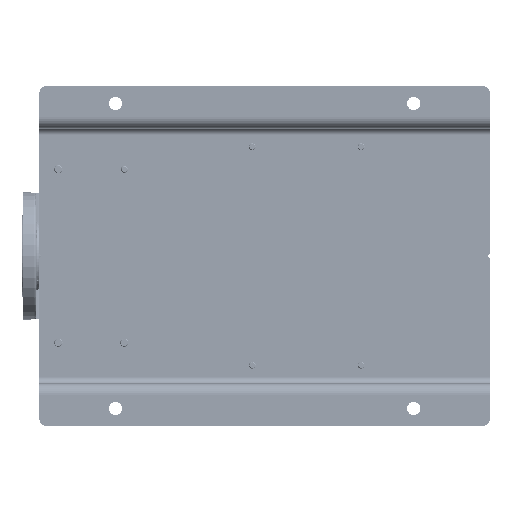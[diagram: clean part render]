
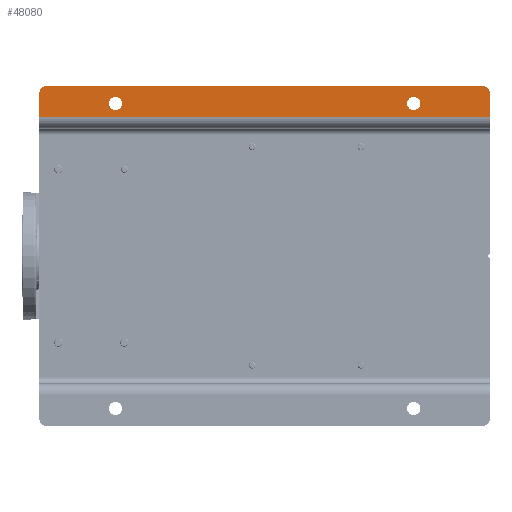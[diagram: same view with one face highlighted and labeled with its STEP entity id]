
A CAD part, front view. The second image highlights one B-rep face of the part: STEP entity #48080.
In plain terms, the highlighted planar face has unit normal (0, -1, 0).
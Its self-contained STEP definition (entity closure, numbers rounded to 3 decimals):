
#3575 = EDGE_CURVE ( 'NONE', #131591, #163287, #31636, .T. ) ;
#3838 = EDGE_CURVE ( 'NONE', #22380, #189676, #130350, .T. ) ;
#6725 = CARTESIAN_POINT ( 'NONE',  ( 465., 0., -540. ) ) ;
#6804 = EDGE_CURVE ( 'NONE', #123948, #104329, #114566, .T. ) ;
#7487 = EDGE_LOOP ( 'NONE', ( #63978, #114356 ) ) ;
#11748 = PLANE ( 'NONE',  #193781 ) ;
#14380 = EDGE_CURVE ( 'NONE', #185604, #106442, #102365, .T. ) ;
#16366 = ORIENTED_EDGE ( 'NONE', *, *, #123491, .T. ) ;
#16694 = ORIENTED_EDGE ( 'NONE', *, *, #33812, .T. ) ;
#21571 = LINE ( 'NONE', #84446, #44645 ) ;
#22380 = VERTEX_POINT ( 'NONE', #163506 ) ;
#27695 = CARTESIAN_POINT ( 'NONE',  ( 455.5, 0., -110. ) ) ;
#31524 = VERTEX_POINT ( 'NONE', #66882 ) ;
#31636 = CIRCLE ( 'NONE', #188285, 9.5 ) ;
#32027 = CIRCLE ( 'NONE', #110352, 9.5 ) ;
#33812 = EDGE_CURVE ( 'NONE', #106442, #31524, #54095, .T. ) ;
#35501 = DIRECTION ( 'NONE',  ( 0., 0., -1. ) ) ;
#36549 = DIRECTION ( 'NONE',  ( 0., 1., 0. ) ) ;
#41627 = FACE_BOUND ( 'NONE', #7487, .T. ) ;
#43294 = CARTESIAN_POINT ( 'NONE',  ( 465., 0., -540. ) ) ;
#43712 = CARTESIAN_POINT ( 'NONE',  ( 429., 0., -650. ) ) ;
#44541 = AXIS2_PLACEMENT_3D ( 'NONE', #77691, #142704, #207675 ) ;
#44645 = VECTOR ( 'NONE', #66391, 1000. ) ;
#47303 = CARTESIAN_POINT ( 'NONE',  ( 445., 0., -650. ) ) ;
#48080 = ADVANCED_FACE ( 'NONE', ( #205670, #41627, #186563 ), #11748, .T. ) ;
#51487 = CARTESIAN_POINT ( 'NONE',  ( 474.5, 0., -110. ) ) ;
#52025 = CARTESIAN_POINT ( 'NONE',  ( 465., 0., -110. ) ) ;
#54095 = LINE ( 'NONE', #119094, #197700 ) ;
#55368 = ORIENTED_EDGE ( 'NONE', *, *, #167305, .F. ) ;
#63977 = CIRCLE ( 'NONE', #206918, 10. ) ;
#63978 = ORIENTED_EDGE ( 'NONE', *, *, #119311, .T. ) ;
#66391 = DIRECTION ( 'NONE',  ( 1., 0., 0. ) ) ;
#66882 = CARTESIAN_POINT ( 'NONE',  ( 490., 0., -10. ) ) ;
#72103 = ORIENTED_EDGE ( 'NONE', *, *, #3575, .T. ) ;
#72616 = ORIENTED_EDGE ( 'NONE', *, *, #6804, .T. ) ;
#73538 = CARTESIAN_POINT ( 'NONE',  ( 429., 0., 0. ) ) ;
#75618 = CARTESIAN_POINT ( 'NONE',  ( 480., 0., 0. ) ) ;
#77691 = CARTESIAN_POINT ( 'NONE',  ( 480., 0., -640. ) ) ;
#84446 = CARTESIAN_POINT ( 'NONE',  ( 429., 0., -650. ) ) ;
#87130 = EDGE_LOOP ( 'NONE', ( #16366, #72103 ) ) ;
#87433 = LINE ( 'NONE', #73538, #203003 ) ;
#89524 = DIRECTION ( 'NONE',  ( 1., 0., 0. ) ) ;
#89600 = DIRECTION ( 'NONE',  ( 0., 0., -1. ) ) ;
#93585 = EDGE_CURVE ( 'NONE', #104329, #185604, #21571, .T. ) ;
#94578 = DIRECTION ( 'NONE',  ( 0., 0., -1. ) ) ;
#95400 = EDGE_LOOP ( 'NONE', ( #55368, #72616, #180488, #114452, #16694, #118558 ) ) ;
#102365 = CIRCLE ( 'NONE', #44541, 10. ) ;
#103925 = DIRECTION ( 'NONE',  ( 0., 0., -1. ) ) ;
#104329 = VERTEX_POINT ( 'NONE', #47303 ) ;
#106442 = VERTEX_POINT ( 'NONE', #186575 ) ;
#109367 = DIRECTION ( 'NONE',  ( 0., 1., 0. ) ) ;
#109540 = CARTESIAN_POINT ( 'NONE',  ( 480., 0., -10. ) ) ;
#110352 = AXIS2_PLACEMENT_3D ( 'NONE', #52025, #182012, #179919 ) ;
#111440 = DIRECTION ( 'NONE',  ( 0., 0., -1. ) ) ;
#111767 = CARTESIAN_POINT ( 'NONE',  ( 455.5, 0., -540. ) ) ;
#113303 = AXIS2_PLACEMENT_3D ( 'NONE', #6725, #36549, #35501 ) ;
#114356 = ORIENTED_EDGE ( 'NONE', *, *, #3838, .T. ) ;
#114452 = ORIENTED_EDGE ( 'NONE', *, *, #14380, .T. ) ;
#114566 = LINE ( 'NONE', #197672, #210291 ) ;
#117251 = CARTESIAN_POINT ( 'NONE',  ( 480., 0., -650. ) ) ;
#118558 = ORIENTED_EDGE ( 'NONE', *, *, #149904, .T. ) ;
#119094 = CARTESIAN_POINT ( 'NONE',  ( 490., 0., -650. ) ) ;
#119311 = EDGE_CURVE ( 'NONE', #189676, #22380, #171068, .T. ) ;
#123491 = EDGE_CURVE ( 'NONE', #163287, #131591, #32027, .T. ) ;
#123948 = VERTEX_POINT ( 'NONE', #207136 ) ;
#125762 = DIRECTION ( 'NONE',  ( 0., -1., 0. ) ) ;
#128660 = DIRECTION ( 'NONE',  ( 0., -1., 0. ) ) ;
#130316 = AXIS2_PLACEMENT_3D ( 'NONE', #43294, #109367, #111440 ) ;
#130350 = CIRCLE ( 'NONE', #113303, 9.5 ) ;
#131591 = VERTEX_POINT ( 'NONE', #51487 ) ;
#142704 = DIRECTION ( 'NONE',  ( 0., -1., 0. ) ) ;
#142750 = VERTEX_POINT ( 'NONE', #75618 ) ;
#149904 = EDGE_CURVE ( 'NONE', #31524, #142750, #63977, .T. ) ;
#163287 = VERTEX_POINT ( 'NONE', #27695 ) ;
#163506 = CARTESIAN_POINT ( 'NONE',  ( 474.5, 0., -540. ) ) ;
#167305 = EDGE_CURVE ( 'NONE', #123948, #142750, #87433, .T. ) ;
#171068 = CIRCLE ( 'NONE', #130316, 9.5 ) ;
#179919 = DIRECTION ( 'NONE',  ( 0., 0., -1. ) ) ;
#180488 = ORIENTED_EDGE ( 'NONE', *, *, #93585, .T. ) ;
#182012 = DIRECTION ( 'NONE',  ( 0., 1., 0. ) ) ;
#183858 = CARTESIAN_POINT ( 'NONE',  ( 465., 0., -110. ) ) ;
#184918 = DIRECTION ( 'NONE',  ( 0., 1., 0. ) ) ;
#185604 = VERTEX_POINT ( 'NONE', #117251 ) ;
#186563 = FACE_OUTER_BOUND ( 'NONE', #95400, .T. ) ;
#186575 = CARTESIAN_POINT ( 'NONE',  ( 490., 0., -640. ) ) ;
#188285 = AXIS2_PLACEMENT_3D ( 'NONE', #183858, #184918, #103925 ) ;
#189676 = VERTEX_POINT ( 'NONE', #111767 ) ;
#193781 = AXIS2_PLACEMENT_3D ( 'NONE', #43712, #125762, #89600 ) ;
#197672 = CARTESIAN_POINT ( 'NONE',  ( 445., 0., -650. ) ) ;
#197700 = VECTOR ( 'NONE', #201119, 1000. ) ;
#199760 = DIRECTION ( 'NONE',  ( 0., 0., -1. ) ) ;
#201119 = DIRECTION ( 'NONE',  ( 0., 0., 1. ) ) ;
#203003 = VECTOR ( 'NONE', #89524, 1000. ) ;
#205670 = FACE_BOUND ( 'NONE', #87130, .T. ) ;
#206918 = AXIS2_PLACEMENT_3D ( 'NONE', #109540, #128660, #94578 ) ;
#207136 = CARTESIAN_POINT ( 'NONE',  ( 445., 0., 0. ) ) ;
#207675 = DIRECTION ( 'NONE',  ( 0., 0., -1. ) ) ;
#210291 = VECTOR ( 'NONE', #199760, 1000. ) ;
